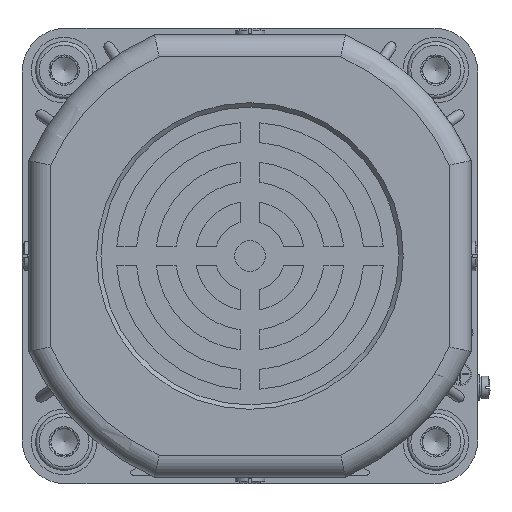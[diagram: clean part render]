
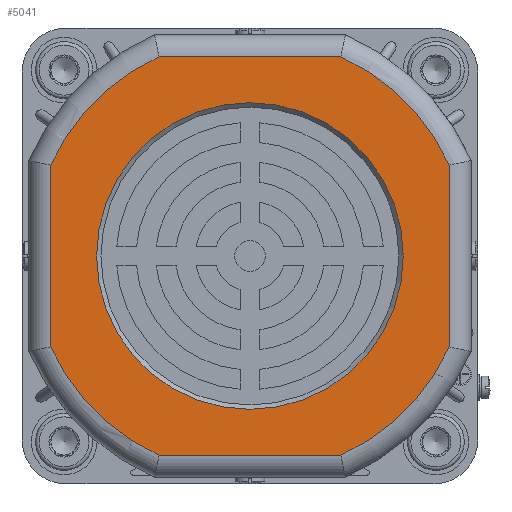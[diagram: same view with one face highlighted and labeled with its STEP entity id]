
A CAD part, left-side view. The second image highlights one B-rep face of the part: STEP entity #5041.
In plain terms, the highlighted planar face has unit normal (-1, 0, 0).
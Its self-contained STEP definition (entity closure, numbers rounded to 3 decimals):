
#1492=FACE_BOUND('',#7074,.T.);
#1493=FACE_BOUND('',#7075,.T.);
#2635=PLANE('',#17532);
#3301=LINE('',#28362,#4075);
#3305=LINE('',#28388,#4079);
#3308=LINE('',#28410,#4082);
#3309=LINE('',#28421,#4083);
#4075=VECTOR('',#20560,1.);
#4079=VECTOR('',#20576,1.);
#4082=VECTOR('',#20587,1.);
#4083=VECTOR('',#20594,1.);
#5041=ADVANCED_FACE('',(#1492,#1493),#2635,.F.);
#7074=EDGE_LOOP('',(#11229,#11230,#11231,#11232,#11233,#11234,#11235,#11236));
#7075=EDGE_LOOP('',(#11237));
#11229=ORIENTED_EDGE('',*,*,#14960,.T.);
#11230=ORIENTED_EDGE('',*,*,#14941,.T.);
#11231=ORIENTED_EDGE('',*,*,#14946,.T.);
#11232=ORIENTED_EDGE('',*,*,#14950,.T.);
#11233=ORIENTED_EDGE('',*,*,#14954,.T.);
#11234=ORIENTED_EDGE('',*,*,#14958,.T.);
#11235=ORIENTED_EDGE('',*,*,#14963,.T.);
#11236=ORIENTED_EDGE('',*,*,#14964,.T.);
#11237=ORIENTED_EDGE('',*,*,#15112,.T.);
#12885=VERTEX_POINT('',#28341);
#12886=VERTEX_POINT('',#28343);
#12888=VERTEX_POINT('',#28361);
#12890=VERTEX_POINT('',#28374);
#12892=VERTEX_POINT('',#28387);
#12894=VERTEX_POINT('',#28400);
#12895=VERTEX_POINT('',#28409);
#12896=VERTEX_POINT('',#28420);
#12996=VERTEX_POINT('',#28722);
#14941=EDGE_CURVE('',#12886,#12885,#16144,.T.);
#14946=EDGE_CURVE('',#12885,#12888,#3301,.T.);
#14950=EDGE_CURVE('',#12888,#12890,#16146,.T.);
#14954=EDGE_CURVE('',#12890,#12892,#3305,.T.);
#14958=EDGE_CURVE('',#12892,#12894,#16148,.T.);
#14960=EDGE_CURVE('',#12895,#12886,#3308,.T.);
#14963=EDGE_CURVE('',#12894,#12896,#3309,.T.);
#14964=EDGE_CURVE('',#12896,#12895,#16150,.T.);
#15112=EDGE_CURVE('',#12996,#12996,#16202,.T.);
#16144=CIRCLE('',#17396,50.);
#16146=CIRCLE('',#17402,50.);
#16148=CIRCLE('',#17408,50.);
#16150=CIRCLE('',#17414,50.);
#16202=CIRCLE('',#17517,35.);
#17396=AXIS2_PLACEMENT_3D('',#28342,#20551,#20552);
#17402=AXIS2_PLACEMENT_3D('',#28375,#20567,#20568);
#17408=AXIS2_PLACEMENT_3D('',#28401,#20583,#20584);
#17414=AXIS2_PLACEMENT_3D('',#28423,#20597,#20598);
#17517=AXIS2_PLACEMENT_3D('',#28721,#20899,#20900);
#17532=AXIS2_PLACEMENT_3D('',#28737,#20929,#20930);
#20551=DIRECTION('',(-1.,0.,0.));
#20552=DIRECTION('',(0.,0.,1.));
#20560=DIRECTION('',(0.,0.,1.));
#20567=DIRECTION('',(-1.,0.,0.));
#20568=DIRECTION('',(0.,0.,1.));
#20576=DIRECTION('',(0.,1.,0.));
#20583=DIRECTION('',(-1.,0.,0.));
#20584=DIRECTION('',(0.,0.,1.));
#20587=DIRECTION('',(0.,-1.,0.));
#20594=DIRECTION('',(0.,0.,-1.));
#20597=DIRECTION('',(-1.,0.,0.));
#20598=DIRECTION('',(0.,0.,1.));
#20899=DIRECTION('',(1.,0.,0.));
#20900=DIRECTION('',(0.,-1.,0.));
#20929=DIRECTION('',(1.,0.,0.));
#20930=DIRECTION('',(0.,0.,1.));
#28341=CARTESIAN_POINT('',(-237.8,-166.171,-79.221));
#28342=CARTESIAN_POINT('',(-237.8,-120.671,-58.491));
#28343=CARTESIAN_POINT('',(-237.8,-141.402,-103.991));
#28361=CARTESIAN_POINT('',(-237.8,-166.171,-37.76));
#28362=CARTESIAN_POINT('',(-237.8,-166.171,-36.702));
#28374=CARTESIAN_POINT('',(-237.8,-141.402,-12.991));
#28375=CARTESIAN_POINT('',(-237.8,-120.671,-58.491));
#28387=CARTESIAN_POINT('',(-237.8,-99.941,-12.991));
#28388=CARTESIAN_POINT('',(-237.8,-98.882,-12.991));
#28400=CARTESIAN_POINT('',(-237.8,-75.171,-37.76));
#28401=CARTESIAN_POINT('',(-237.8,-120.671,-58.491));
#28409=CARTESIAN_POINT('',(-237.8,-99.941,-103.991));
#28410=CARTESIAN_POINT('',(-237.8,-142.46,-103.991));
#28420=CARTESIAN_POINT('',(-237.8,-75.171,-79.221));
#28421=CARTESIAN_POINT('',(-237.8,-75.171,-80.28));
#28423=CARTESIAN_POINT('',(-237.8,-120.671,-58.491));
#28721=CARTESIAN_POINT('',(-237.8,-120.671,-58.491));
#28722=CARTESIAN_POINT('',(-237.8,-155.671,-58.491));
#28737=CARTESIAN_POINT('',(-237.8,-120.671,-58.491));
